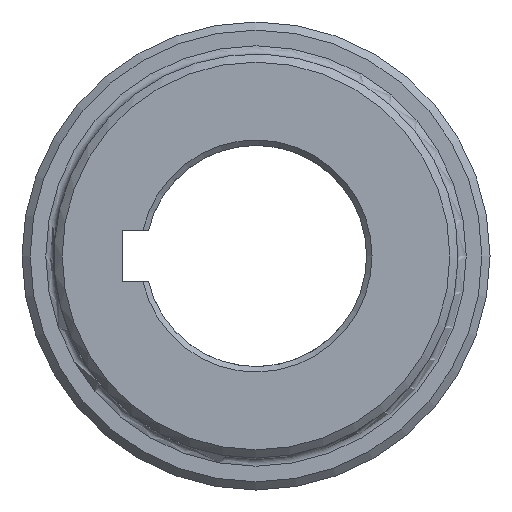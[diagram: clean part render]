
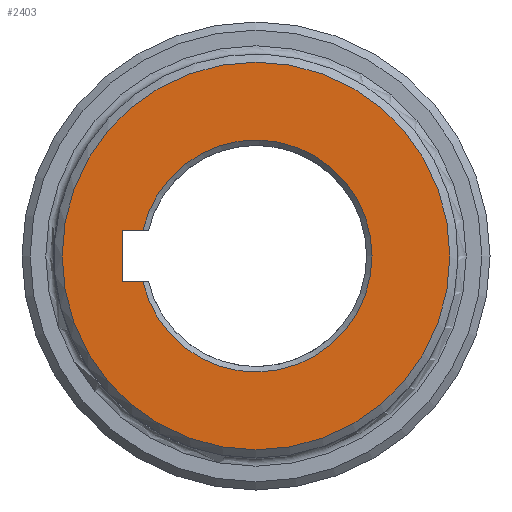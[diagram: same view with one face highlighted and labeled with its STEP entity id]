
A CAD part, left-side view. The second image highlights one B-rep face of the part: STEP entity #2403.
In plain terms, the highlighted planar face has unit normal (-1, 0, 0).
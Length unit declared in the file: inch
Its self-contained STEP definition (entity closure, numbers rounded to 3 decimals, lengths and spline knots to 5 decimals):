
#72 = VERTEX_POINT ( 'NONE', #2457 ) ;
#87 = CARTESIAN_POINT ( 'NONE',  ( 0., 0., 0. ) ) ;
#164 = LINE ( 'NONE', #357, #1840 ) ;
#242 = VERTEX_POINT ( 'NONE', #1936 ) ;
#339 = LINE ( 'NONE', #996, #1501 ) ;
#357 = CARTESIAN_POINT ( 'NONE',  ( 0., 0.98325, -0.1875 ) ) ;
#368 = CARTESIAN_POINT ( 'NONE',  ( 0., 0., 0.1875 ) ) ;
#384 = ORIENTED_EDGE ( 'NONE', *, *, #824, .F. ) ;
#395 = CARTESIAN_POINT ( 'NONE',  ( 0., 0., 0. ) ) ;
#419 = FACE_BOUND ( 'NONE', #2173, .T. ) ;
#457 = FACE_OUTER_BOUND ( 'NONE', #628, .T. ) ;
#462 = DIRECTION ( 'NONE',  ( 0., 0., -1. ) ) ;
#504 = CARTESIAN_POINT ( 'NONE',  ( 0., 0., 0. ) ) ;
#549 = VERTEX_POINT ( 'NONE', #1274 ) ;
#594 = EDGE_CURVE ( 'NONE', #1318, #1318, #1109, .T. ) ;
#628 = EDGE_LOOP ( 'NONE', ( #1703 ) ) ;
#658 = ORIENTED_EDGE ( 'NONE', *, *, #1513, .F. ) ;
#665 = DIRECTION ( 'NONE',  ( 1., 0., 0. ) ) ;
#707 = CARTESIAN_POINT ( 'NONE',  ( 0., 0.98325, -0.1875 ) ) ;
#824 = EDGE_CURVE ( 'NONE', #72, #2399, #164, .T. ) ;
#905 = EDGE_CURVE ( 'NONE', #242, #549, #1133, .T. ) ;
#922 = EDGE_CURVE ( 'NONE', #242, #72, #1238, .T. ) ;
#996 = CARTESIAN_POINT ( 'NONE',  ( 0., 0., -0.1875 ) ) ;
#1109 = CIRCLE ( 'NONE', #1669, 1.425 ) ;
#1133 = CIRCLE ( 'NONE', #2269, 0.85275 ) ;
#1177 = PLANE ( 'NONE',  #1437 ) ;
#1179 = DIRECTION ( 'NONE',  ( 0., 0., -1. ) ) ;
#1187 = CARTESIAN_POINT ( 'NONE',  ( 0., 0., -1.425 ) ) ;
#1238 = LINE ( 'NONE', #368, #1514 ) ;
#1274 = CARTESIAN_POINT ( 'NONE',  ( 0., 0.83188, -0.1875 ) ) ;
#1318 = VERTEX_POINT ( 'NONE', #1187 ) ;
#1437 = AXIS2_PLACEMENT_3D ( 'NONE', #504, #665, #1919 ) ;
#1438 = ORIENTED_EDGE ( 'NONE', *, *, #922, .F. ) ;
#1501 = VECTOR ( 'NONE', #2260, 39.37008 ) ;
#1513 = EDGE_CURVE ( 'NONE', #2399, #549, #339, .T. ) ;
#1514 = VECTOR ( 'NONE', #2054, 39.37008 ) ;
#1669 = AXIS2_PLACEMENT_3D ( 'NONE', #87, #2015, #462 ) ;
#1703 = ORIENTED_EDGE ( 'NONE', *, *, #594, .T. ) ;
#1771 = DIRECTION ( 'NONE',  ( 1., 0., 0. ) ) ;
#1840 = VECTOR ( 'NONE', #1179, 39.37008 ) ;
#1919 = DIRECTION ( 'NONE',  ( 0., 0., -1. ) ) ;
#1936 = CARTESIAN_POINT ( 'NONE',  ( 0., 0.83188, 0.1875 ) ) ;
#2015 = DIRECTION ( 'NONE',  ( -1., 0., 0. ) ) ;
#2054 = DIRECTION ( 'NONE',  ( 0., 1., 0. ) ) ;
#2173 = EDGE_LOOP ( 'NONE', ( #1438, #2223, #658, #384 ) ) ;
#2223 = ORIENTED_EDGE ( 'NONE', *, *, #905, .T. ) ;
#2254 = DIRECTION ( 'NONE',  ( 0., 0., -1. ) ) ;
#2260 = DIRECTION ( 'NONE',  ( 0., -1., 0. ) ) ;
#2269 = AXIS2_PLACEMENT_3D ( 'NONE', #395, #1771, #2254 ) ;
#2399 = VERTEX_POINT ( 'NONE', #707 ) ;
#2403 = ADVANCED_FACE ( 'NONE', ( #457, #419 ), #1177, .F. ) ;
#2457 = CARTESIAN_POINT ( 'NONE',  ( 0., 0.98325, 0.1875 ) ) ;
